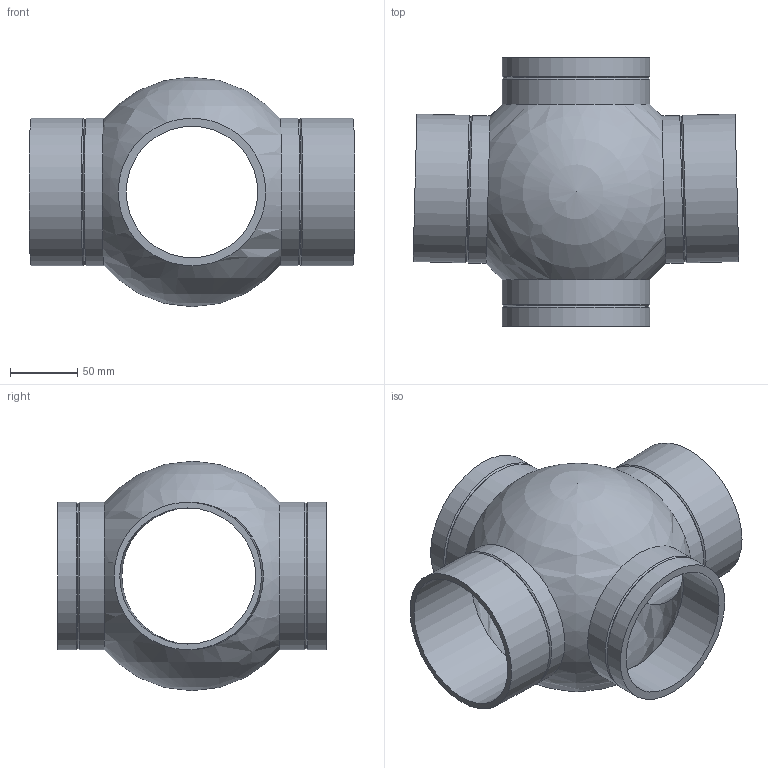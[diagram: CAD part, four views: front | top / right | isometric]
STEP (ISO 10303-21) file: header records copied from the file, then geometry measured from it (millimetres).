
FILE_DESCRIPTION(/* description */ (''),/* implementation_level */ '2;1');
FILE_NAME(/* name */ 'Z:\Geberit\Export\NewStep\367285.stp',/* time_stamp */ '2014-04-02T07:56:30+02:00',/* author */ ('nelson'),/* organization */ (''),/* preprocessor_version */ 'ST-DEVELOPER v15.2',/* originating_system */ 'Autodesk Inventor 2014',/* authorisation */ '');
FILE_SCHEMA (('AUTOMOTIVE_DESIGN { 1 0 10303 214 3 1 1 }'));
Length unit declared in the file: millimetre
Products named in the file (1): 367285
Bounding box: 242.8 x 200 x 171 mm (x, y, z)
Volume: 580222.5 mm3; surface area: 223124.1 mm2
Topology: 1 solids, 1 shells, 26 faces, 62 edges, 40 vertices
Faces by surface type: cylinder 12, cone 8, plane 4, sphere 2
Full cylindrical faces by diameter (mm): 98 x2, 101.4 x2, 110 x8
Entity records: 603 total; most frequent: DIRECTION 110, CARTESIAN_POINT 83, EDGE_LOOP 56, ORIENTED_EDGE 56, AXIS2_PLACEMENT_3D 55, FACE_BOUND 36, CIRCLE 28, VERTEX_POINT 28
